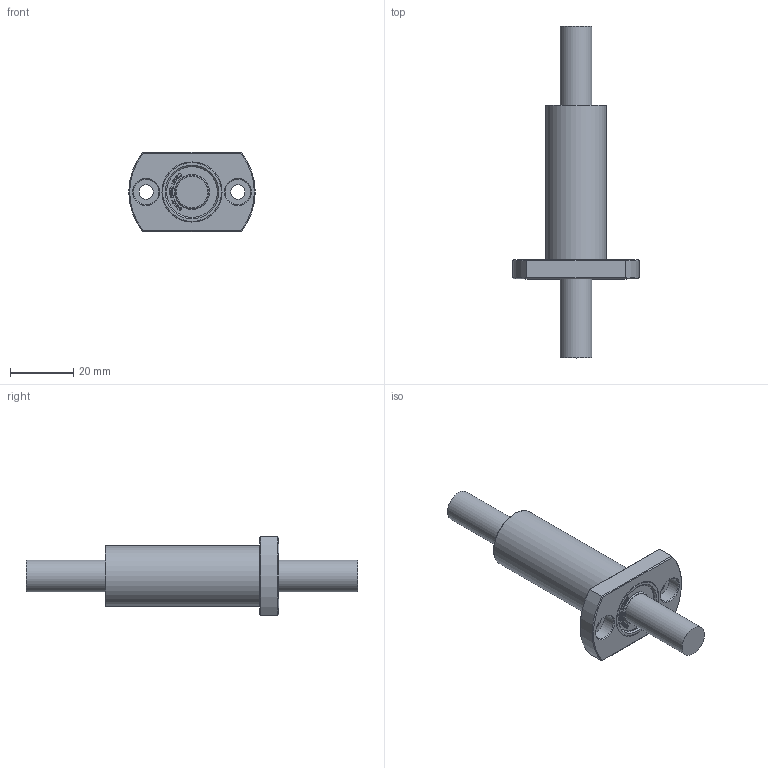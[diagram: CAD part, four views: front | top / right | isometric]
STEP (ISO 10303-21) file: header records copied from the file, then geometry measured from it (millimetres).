
FILE_DESCRIPTION(/* description */ (''),/* implementation_level */ '2;1');
FILE_NAME(/* name */ 'W:\(01) 2024년 홈페이지 CAD파일 최신화\LMH_L\IPT\LMH10LUU.stp',/* time_stamp */ '2025-01-23T10:14:37+09:00',/* author */ ('서우현'),/* organization */ (''),/* preprocessor_version */ 'ST-DEVELOPER v17.2',/* originating_system */ 'Autodesk Inventor 2019',/* authorisation */ '');
FILE_SCHEMA (('AUTOMOTIVE_DESIGN { 1 0 10303 214 3 1 1 }'));
Length unit declared in the file: millimetre
Products named in the file (1): LM5
Bounding box: 40 x 105 x 25 mm (x, y, z)
Volume: 22684.2 mm3; surface area: 7334.7 mm2
Topology: 1 solids, 1 shells, 824 faces, 2312 edges, 1544 vertices
Faces by surface type: bspline 568, plane 230, cone 12, cylinder 12, torus 2
Full cylindrical faces by diameter (mm): 4.5 x2, 8 x2, 10 x2, 16 x2, 19 x2
Entity records: 28002 total; most frequent: CARTESIAN_POINT 9809, ORIENTED_EDGE 4624, EDGE_CURVE 2312, DIRECTION 1748, VERTEX_POINT 1544, B_SPLINE_CURVE_WITH_KNOTS 1136, LINE 1102, VECTOR 1102
